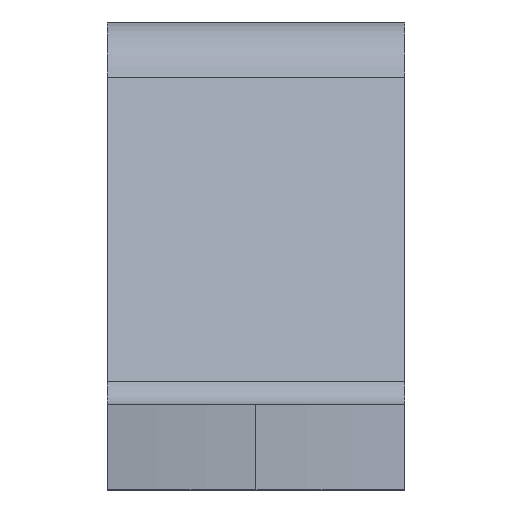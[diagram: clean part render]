
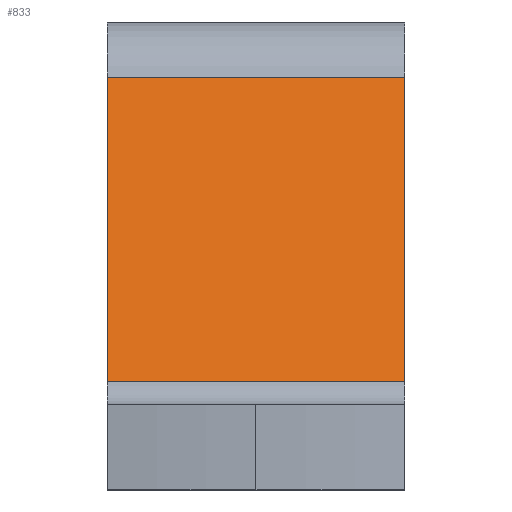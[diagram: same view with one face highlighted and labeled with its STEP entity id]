
A CAD part, left-side view. The second image highlights one B-rep face of the part: STEP entity #833.
In plain terms, the highlighted planar face has unit normal (-0.966, 0, 0.259).
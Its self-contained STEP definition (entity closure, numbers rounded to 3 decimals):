
#433=CARTESIAN_POINT('',(-41.222,-7.,8.406));
#434=VERTEX_POINT('',#433);
#442=CARTESIAN_POINT('',(-45.052,-7.,-5.888));
#443=VERTEX_POINT('',#442);
#444=CARTESIAN_POINT('',(-45.052,-7.,-5.888));
#445=DIRECTION('',(0.259,0.,0.966));
#446=VECTOR('',#445,14.798);
#447=LINE('',#444,#446);
#448=EDGE_CURVE('',#443,#434,#447,.T.);
#694=CARTESIAN_POINT('',(-45.052,7.,-5.888));
#695=VERTEX_POINT('',#694);
#703=CARTESIAN_POINT('',(-41.222,7.,8.406));
#704=VERTEX_POINT('',#703);
#705=CARTESIAN_POINT('',(-45.052,7.,-5.888));
#706=DIRECTION('',(0.259,0.,0.966));
#707=VECTOR('',#706,14.798);
#708=LINE('',#705,#707);
#709=EDGE_CURVE('',#695,#704,#708,.T.);
#806=CARTESIAN_POINT('',(-45.052,7.,-5.888));
#807=DIRECTION('',(0.0,-1.0,0.0));
#808=VECTOR('',#807,14.0);
#809=LINE('',#806,#808);
#810=EDGE_CURVE('',#695,#443,#809,.T.);
#817=CARTESIAN_POINT('',(-45.052,7.,-5.888));
#818=DIRECTION('',(-0.966,0.,0.259));
#819=DIRECTION('',(-0.259,0.,-0.966));
#820=AXIS2_PLACEMENT_3D('',#817,#818,#819);
#821=PLANE('',#820);
#822=ORIENTED_EDGE('',*,*,#448,.T.);
#823=CARTESIAN_POINT('',(-41.222,7.,8.406));
#824=DIRECTION('',(0.0,-1.0,0.0));
#825=VECTOR('',#824,14.0);
#826=LINE('',#823,#825);
#827=EDGE_CURVE('',#704,#434,#826,.T.);
#828=ORIENTED_EDGE('',*,*,#827,.F.);
#829=ORIENTED_EDGE('',*,*,#709,.F.);
#830=ORIENTED_EDGE('',*,*,#810,.T.);
#831=EDGE_LOOP('',(#822,#828,#829,#830));
#832=FACE_OUTER_BOUND('',#831,.T.);
#833=ADVANCED_FACE('',(#832),#821,.T.);
